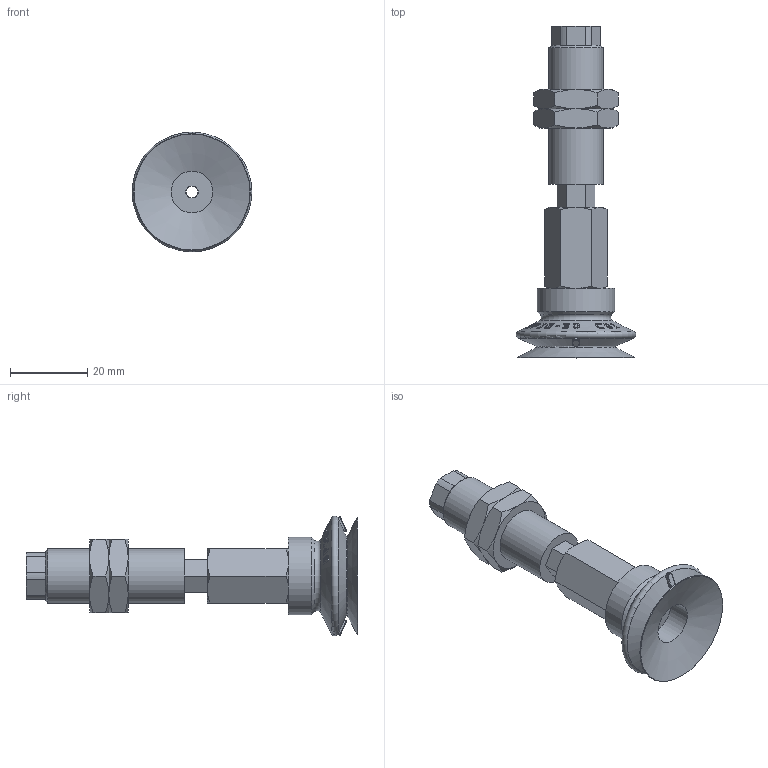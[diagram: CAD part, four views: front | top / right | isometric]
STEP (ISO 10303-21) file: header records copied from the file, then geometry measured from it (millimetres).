
FILE_DESCRIPTION(('STEP AP214'),'1');
FILE_NAME('.stp','2026-01-21T06:13:28',(' '),(' '),'Spatial InterOp 3D',' ',' ');
FILE_SCHEMA(('AUTOMOTIVE_DESIGN { 1 0 10303 214 1 1 1 1 }'));
Length unit declared in the file: millimetre
Products named in the file (7): BNABPJTH-30-6-※; BPJG-30-※; ADAPTER; NAPJTH-30-6-MBODY; Adapter-30-NAPJ; NAPJH-30-6-NUT; NAPJTH-30-6-FBODY
Assembly tree (7 placements, depth 2):
  BNABPJTH-30-6-※
    BPJG-30-※
    ADAPTER
    NAPJTH-30-6-MBODY
    Adapter-30-NAPJ
    NAPJH-30-6-NUT  x2
    NAPJTH-30-6-FBODY
Bounding box: 30.99 x 86 x 30.99 mm (x, y, z)
Volume: 17252.7 mm3; surface area: 12406.4 mm2
Topology: 7 solids, 7 shells, 780 faces, 2171 edges, 1426 vertices
Faces by surface type: plane 679, cone 67, cylinder 27, torus 7
Full cylindrical faces by diameter (mm): 3 x3, 4.134 x1, 4.917 x1, 5.8 x1, 6 x1, 10.8 x1, 11 x1, 13.188 x2, 14 x1, 20 x1
Entity records: 31265 total; most frequent: CARTESIAN_POINT 7744, ORIENTED_EDGE 4182, DIRECTION 2635, EDGE_CURVE 2091, VERTEX_POINT 1394, B_SPLINE_CURVE_WITH_KNOTS 1084, LINE 909, VECTOR 909
